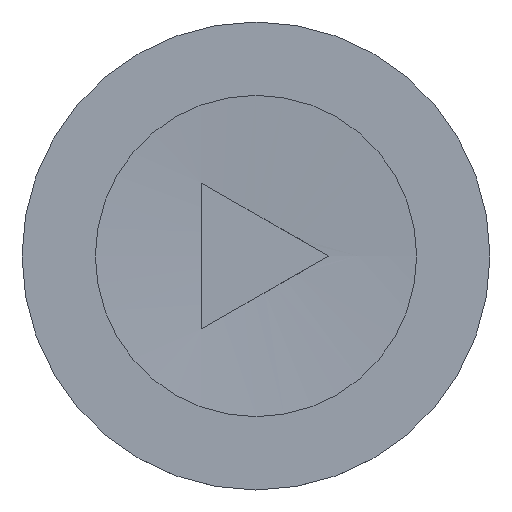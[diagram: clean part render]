
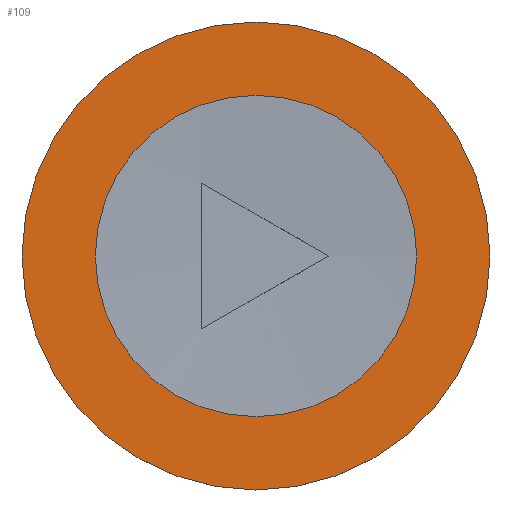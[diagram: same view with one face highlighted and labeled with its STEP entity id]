
A CAD part, top view. The second image highlights one B-rep face of the part: STEP entity #109.
In plain terms, the highlighted planar face has unit normal (0, 0, 1).
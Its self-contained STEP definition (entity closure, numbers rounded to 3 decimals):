
#21 = EDGE_CURVE('',#22,#22,#24,.T.);
#22 = VERTEX_POINT('',#23);
#23 = CARTESIAN_POINT('',(15.4,-44.,11.55));
#24 = SURFACE_CURVE('',#25,(#30,#42),.PCURVE_S1.);
#25 = CIRCLE('',#26,15.4);
#26 = AXIS2_PLACEMENT_3D('',#27,#28,#29);
#27 = CARTESIAN_POINT('',(0.,-44.,11.55));
#28 = DIRECTION('',(0.,0.,-1.));
#29 = DIRECTION('',(1.,0.,0.));
#30 = PCURVE('',#31,#36);
#31 = CYLINDRICAL_SURFACE('',#32,15.4);
#32 = AXIS2_PLACEMENT_3D('',#33,#34,#35);
#33 = CARTESIAN_POINT('',(0.,-44.,10.1));
#34 = DIRECTION('',(-0.,-0.,-1.));
#35 = DIRECTION('',(1.,0.,0.));
#36 = DEFINITIONAL_REPRESENTATION('',(#37),#41);
#37 = LINE('',#38,#39);
#38 = CARTESIAN_POINT('',(0.,-1.45));
#39 = VECTOR('',#40,1.);
#40 = DIRECTION('',(1.,-0.));
#41 = ( GEOMETRIC_REPRESENTATION_CONTEXT(2) 
PARAMETRIC_REPRESENTATION_CONTEXT() REPRESENTATION_CONTEXT('2D SPACE',''
  ) );
#42 = PCURVE('',#43,#48);
#43 = PLANE('',#44);
#44 = AXIS2_PLACEMENT_3D('',#45,#46,#47);
#45 = CARTESIAN_POINT('',(-50.,-75.,11.55));
#46 = DIRECTION('',(0.,0.,1.));
#47 = DIRECTION('',(1.,0.,-0.));
#48 = DEFINITIONAL_REPRESENTATION('',(#49),#57);
#49 = ( BOUNDED_CURVE() B_SPLINE_CURVE(2,(#50,#51,#52,#53,#54,#55,#56),
.UNSPECIFIED.,.T.,.F.) B_SPLINE_CURVE_WITH_KNOTS((1,2,2,2,2,1),(
    -2.094,0.,2.094,4.189,6.283,
8.378),.UNSPECIFIED.) CURVE() GEOMETRIC_REPRESENTATION_ITEM() 
RATIONAL_B_SPLINE_CURVE((1.,0.5,1.,0.5,1.,0.5,1.)) REPRESENTATION_ITEM(
  '') );
#50 = CARTESIAN_POINT('',(65.4,31.));
#51 = CARTESIAN_POINT('',(65.4,4.326));
#52 = CARTESIAN_POINT('',(42.3,17.663));
#53 = CARTESIAN_POINT('',(19.2,31.));
#54 = CARTESIAN_POINT('',(42.3,44.337));
#55 = CARTESIAN_POINT('',(65.4,57.674));
#56 = CARTESIAN_POINT('',(65.4,31.));
#57 = ( GEOMETRIC_REPRESENTATION_CONTEXT(2) 
PARAMETRIC_REPRESENTATION_CONTEXT() REPRESENTATION_CONTEXT('2D SPACE',''
  ) );
#109 = ADVANCED_FACE('',(#110,#113),#43,.T.);
#110 = FACE_BOUND('',#111,.T.);
#111 = EDGE_LOOP('',(#112));
#112 = ORIENTED_EDGE('',*,*,#21,.F.);
#113 = FACE_BOUND('',#114,.T.);
#114 = EDGE_LOOP('',(#115));
#115 = ORIENTED_EDGE('',*,*,#116,.F.);
#116 = EDGE_CURVE('',#117,#117,#119,.T.);
#117 = VERTEX_POINT('',#118);
#118 = CARTESIAN_POINT('',(10.575,-44.,11.55));
#119 = SURFACE_CURVE('',#120,(#125,#132),.PCURVE_S1.);
#120 = CIRCLE('',#121,10.575);
#121 = AXIS2_PLACEMENT_3D('',#122,#123,#124);
#122 = CARTESIAN_POINT('',(0.,-44.,11.55));
#123 = DIRECTION('',(0.,0.,1.));
#124 = DIRECTION('',(1.,0.,-0.));
#125 = PCURVE('',#43,#126);
#126 = DEFINITIONAL_REPRESENTATION('',(#127),#131);
#127 = CIRCLE('',#128,10.575);
#128 = AXIS2_PLACEMENT_2D('',#129,#130);
#129 = CARTESIAN_POINT('',(50.,31.));
#130 = DIRECTION('',(1.,0.));
#131 = ( GEOMETRIC_REPRESENTATION_CONTEXT(2) 
PARAMETRIC_REPRESENTATION_CONTEXT() REPRESENTATION_CONTEXT('2D SPACE',''
  ) );
#132 = PCURVE('',#133,#138);
#133 = SPHERICAL_SURFACE('',#134,140.);
#134 = AXIS2_PLACEMENT_3D('',#135,#136,#137);
#135 = CARTESIAN_POINT('',(0.,-44.,151.15));
#136 = DIRECTION('',(0.,0.,1.));
#137 = DIRECTION('',(1.,0.,-0.));
#138 = DEFINITIONAL_REPRESENTATION('',(#139),#143);
#139 = LINE('',#140,#141);
#140 = CARTESIAN_POINT('',(0.,-1.495));
#141 = VECTOR('',#142,1.);
#142 = DIRECTION('',(1.,0.));
#143 = ( GEOMETRIC_REPRESENTATION_CONTEXT(2) 
PARAMETRIC_REPRESENTATION_CONTEXT() REPRESENTATION_CONTEXT('2D SPACE',''
  ) );
